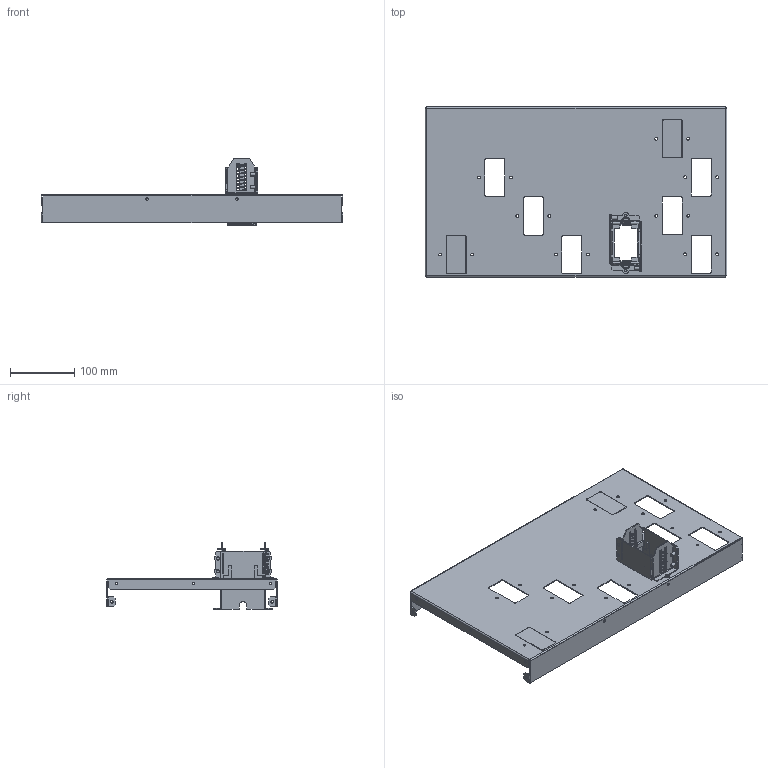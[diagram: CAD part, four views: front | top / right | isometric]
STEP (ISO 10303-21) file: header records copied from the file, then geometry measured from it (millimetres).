
FILE_DESCRIPTION(('CAx-IF Rec.Pracs.---Model Styling and Organization---1.2---2011-12-15','CAx-IF Rec.Pracs.---Geometric and Assembly Validation Properties---4.1---2014-06-16','CAx-IF Rec.Pracs.---PMI Polyline Presentation---2.0---2013-05-24'),'2;1');
FILE_NAME('R5M2W6M1BR66.stp','2021-05-05T12:33:37+03:00',(''),(''),'STEP Interface 4.4 by CT CoreTechnologie','3D_Evolution4.4 by CT CoreTechnologie','');
FILE_SCHEMA(('AUTOMOTIVE_DESIGN { 1 0 10303 214 1 1 1 1 }'));
Length unit declared in the file: millimetre
Products named in the file (8): R5M2W6M1BR66; RB.1506.00.00.0_-07; RB.1567.00.00.0_-00; RB.1765.00.00.0 ÑÁ; M5x8-DIN7500C_stright; RB.1570.00.00.0; RB.1569.00.00.1_-00; RB.1571.00.00.0_In prestressed condition - 40 mm
Assembly tree (13 placements, depth 3):
  R5M2W6M1BR66
    RB.1506.00.00.0_-07
    RB.1567.00.00.0_-00
    RB.1765.00.00.0 ÑÁ
      M5x8-DIN7500C_stright  x4
      RB.1570.00.00.0  x2
      RB.1569.00.00.1_-00  x2
      RB.1571.00.00.0_In prestressed condition - 40 mm  x2
Bounding box: 470 x 265 x 103.8 mm (x, y, z)
Surface area: 382364.2 mm2 (no closed solid volume)
Topology: 0 solids, 20 shells, 710 faces, 1893 edges, 1223 vertices
Faces by surface type: plane 458, cylinder 224, bspline 28
Entity records: 18428 total; most frequent: CARTESIAN_POINT 4434, ORIENTED_EDGE 2806, DIRECTION 2803, EDGE_CURVE 1403, VECTOR 1015, LINE 1015, VERTEX_POINT 905, AXIS2_PLACEMENT_3D 894
